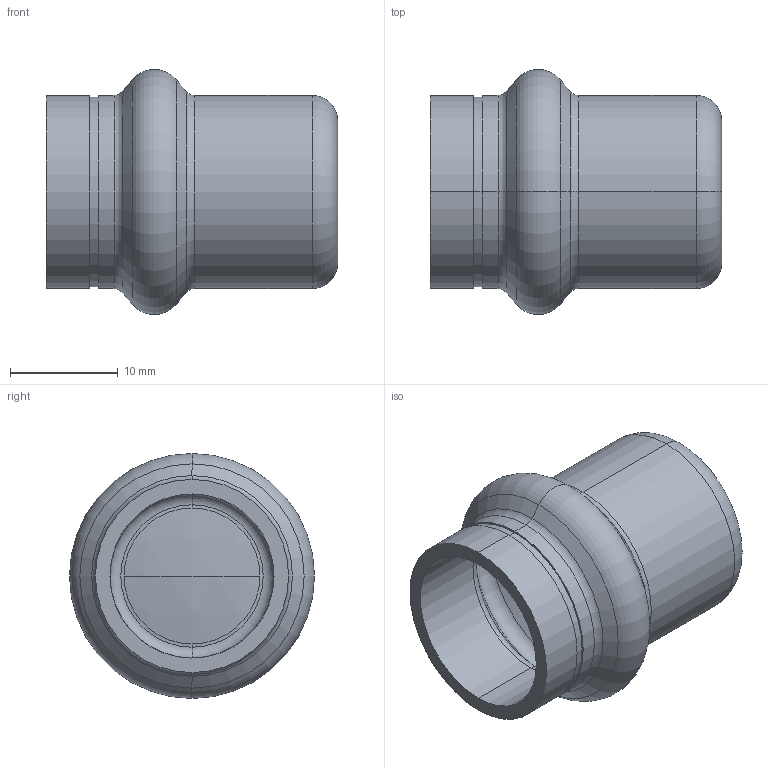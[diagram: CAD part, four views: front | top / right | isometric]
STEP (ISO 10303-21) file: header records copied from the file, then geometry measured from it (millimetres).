
FILE_DESCRIPTION (( 'STEP AP203' ), '1' );
FILE_NAME ('SP5301 15.STEP', '2017-04-24T09:26:01', ( '' ), ( '' ), 'SwSTEP 2.0', 'SolidWorks 2016', '' );
FILE_SCHEMA (( 'CONFIG_CONTROL_DESIGN' ));
Length unit declared in the file: millimetre
Products named in the file (1): SP5301 15
Bounding box: 27 x 22.7 x 22.7 mm (x, y, z)
Volume: 2318.8 mm3; surface area: 3520.3 mm2
Topology: 1 solids, 1 shells, 50 faces, 102 edges, 58 vertices
Faces by surface type: torus 20, cylinder 14, cone 8, sphere 4, plane 4
Entity records: 1403 total; most frequent: DIRECTION 284, CARTESIAN_POINT 211, ORIENTED_EDGE 204, AXIS2_PLACEMENT_3D 131, EDGE_CURVE 102, CIRCLE 80, VERTEX_POINT 58, EDGE_LOOP 54
